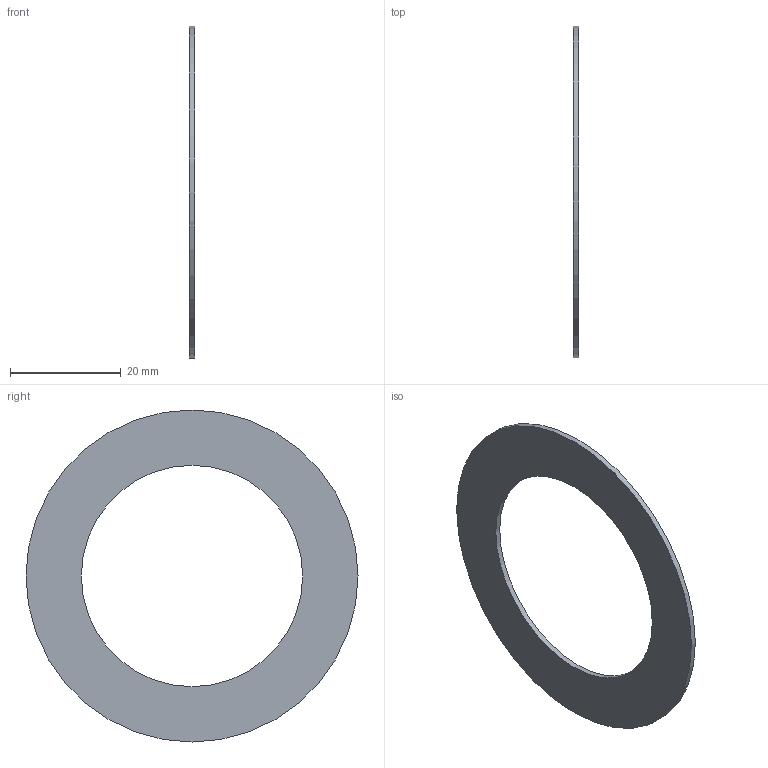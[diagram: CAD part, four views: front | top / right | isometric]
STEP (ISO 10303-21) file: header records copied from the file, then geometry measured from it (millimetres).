
FILE_DESCRIPTION(/* description */ (''),/* implementation_level */ '2;1');
FILE_NAME(/* name */ 'I:\Katalóg ihlovích ložísk\AXK---\AS--\AS 4060.stp',/* time_stamp */ '2016-12-12T14:08:39+01:00',/* author */ ('OUBALASKO'),/* organization */ (''),/* preprocessor_version */ 'ST-DEVELOPER v15.6',/* originating_system */ 'Autodesk Inventor 2015',/* authorisation */ '');
FILE_SCHEMA (('AUTOMOTIVE_DESIGN { 1 0 10303 214 3 1 1 }'));
Length unit declared in the file: millimetre
Products named in the file (1): AS 4060
Bounding box: 1 x 60 x 60 mm (x, y, z)
Volume: 1570.8 mm3; surface area: 3455.8 mm2
Topology: 1 solids, 1 shells, 4 faces, 6 edges, 4 vertices
Faces by surface type: plane 2, cylinder 2
Full cylindrical faces by diameter (mm): 40 x1, 60 x1
Entity records: 112 total; most frequent: DIRECTION 18, CARTESIAN_POINT 13, AXIS2_PLACEMENT_3D 9, EDGE_LOOP 8, ORIENTED_EDGE 8, FACE_BOUND 4, FACE_OUTER_BOUND 4, CIRCLE 4
